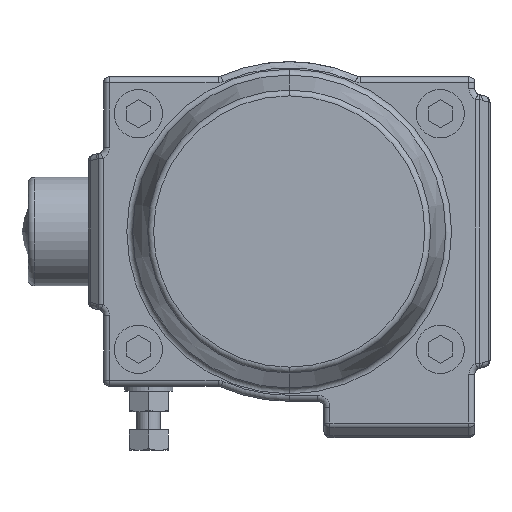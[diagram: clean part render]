
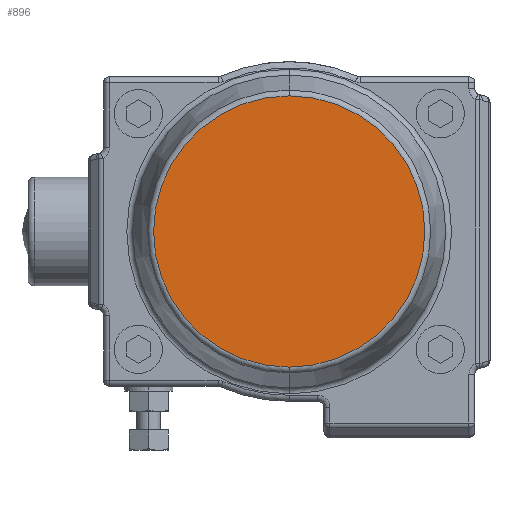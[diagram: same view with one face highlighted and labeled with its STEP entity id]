
A CAD part, left-side view. The second image highlights one B-rep face of the part: STEP entity #896.
In plain terms, the highlighted planar face has unit normal (-1, 0, 0).
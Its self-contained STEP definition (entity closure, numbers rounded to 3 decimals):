
#887 = EDGE_LOOP ( 'NONE', ( #4163, #14526 ) ) ;
#896 = ADVANCED_FACE ( 'NONE', ( #3303 ), #15459, .T. ) ;
#1662 = AXIS2_PLACEMENT_3D ( 'NONE', #1880, #3140, #11929 ) ;
#1880 = CARTESIAN_POINT ( 'NONE',  ( -135., 0., 0. ) ) ;
#2047 = CIRCLE ( 'NONE', #1662, 44.928 ) ;
#2406 = CIRCLE ( 'NONE', #4258, 44.928 ) ;
#2971 = DIRECTION ( 'NONE',  ( 0., 0., 1. ) ) ;
#3140 = DIRECTION ( 'NONE',  ( -1., 0., 0. ) ) ;
#3303 = FACE_OUTER_BOUND ( 'NONE', #887, .T. ) ;
#3723 = DIRECTION ( 'NONE',  ( -1., 0., 0. ) ) ;
#3776 = CARTESIAN_POINT ( 'NONE',  ( -135., 0., 0. ) ) ;
#4035 = EDGE_CURVE ( 'NONE', #7850, #9856, #2406, .T. ) ;
#4163 = ORIENTED_EDGE ( 'NONE', *, *, #4035, .T. ) ;
#4258 = AXIS2_PLACEMENT_3D ( 'NONE', #3776, #3723, #12508 ) ;
#5471 = DIRECTION ( 'NONE',  ( -1., 0., 0. ) ) ;
#5689 = CARTESIAN_POINT ( 'NONE',  ( -135., 0., 0. ) ) ;
#6676 = CARTESIAN_POINT ( 'NONE',  ( -135., 0., 44.928 ) ) ;
#7850 = VERTEX_POINT ( 'NONE', #6676 ) ;
#9856 = VERTEX_POINT ( 'NONE', #13001 ) ;
#11929 = DIRECTION ( 'NONE',  ( 0., 0., 1. ) ) ;
#12399 = AXIS2_PLACEMENT_3D ( 'NONE', #5689, #5471, #2971 ) ;
#12508 = DIRECTION ( 'NONE',  ( 0., 0., 1. ) ) ;
#13001 = CARTESIAN_POINT ( 'NONE',  ( -135., 0., -44.928 ) ) ;
#14526 = ORIENTED_EDGE ( 'NONE', *, *, #16171, .T. ) ;
#15459 = PLANE ( 'NONE',  #12399 ) ;
#16171 = EDGE_CURVE ( 'NONE', #9856, #7850, #2047, .T. ) ;
